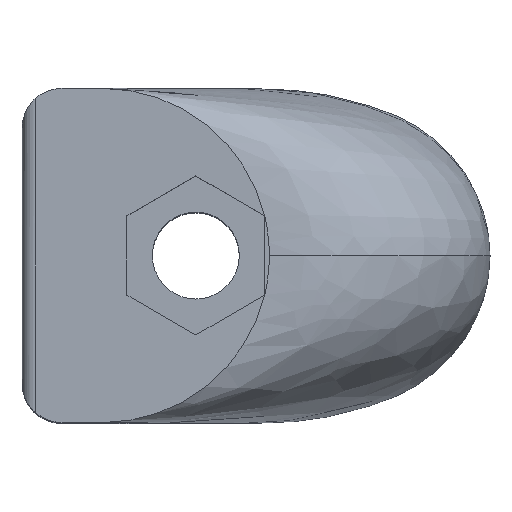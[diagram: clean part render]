
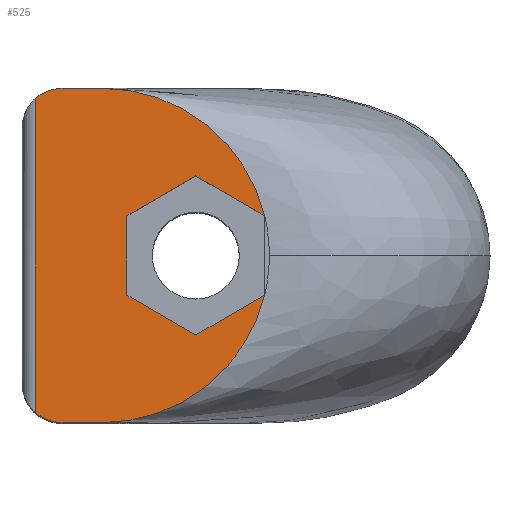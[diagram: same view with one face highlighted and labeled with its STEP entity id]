
A CAD part, top view. The second image highlights one B-rep face of the part: STEP entity #525.
In plain terms, the highlighted planar face has unit normal (0, 0, 1) as drawn and (0, 0, -1) by its records, which use the part's own axes.
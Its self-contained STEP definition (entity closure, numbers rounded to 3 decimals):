
#3 = VECTOR ( 'NONE', #1205, 1000. ) ;
#17 = AXIS2_PLACEMENT_3D ( 'NONE', #1188, #994, #893 ) ;
#18 = ORIENTED_EDGE ( 'NONE', *, *, #938, .F. ) ;
#37 = LINE ( 'NONE', #735, #290 ) ;
#40 = CARTESIAN_POINT ( 'NONE',  ( -7., -12.5, -22.65 ) ) ;
#50 = LINE ( 'NONE', #573, #3 ) ;
#74 = VECTOR ( 'NONE', #150, 1000. ) ;
#112 = CARTESIAN_POINT ( 'NONE',  ( -10., 12.5, -22.65 ) ) ;
#114 = AXIS2_PLACEMENT_3D ( 'NONE', #956, #352, #972 ) ;
#147 = DIRECTION ( 'NONE',  ( -0.866, -0.5, 0. ) ) ;
#150 = DIRECTION ( 'NONE',  ( 0., 1., 0. ) ) ;
#151 = ORIENTED_EDGE ( 'NONE', *, *, #1065, .F. ) ;
#154 = CARTESIAN_POINT ( 'NONE',  ( -12., 11.736, -22.65 ) ) ;
#156 = DIRECTION ( 'NONE',  ( 0.866, 0.5, 0. ) ) ;
#188 = CARTESIAN_POINT ( 'NONE',  ( -10., -12.5, -22.65 ) ) ;
#191 = VERTEX_POINT ( 'NONE', #188 ) ;
#193 = AXIS2_PLACEMENT_3D ( 'NONE', #475, #493, #381 ) ;
#215 = AXIS2_PLACEMENT_3D ( 'NONE', #976, #480, #983 ) ;
#219 = ORIENTED_EDGE ( 'NONE', *, *, #955, .T. ) ;
#229 = EDGE_CURVE ( 'NONE', #191, #258, #312, .T. ) ;
#245 = ORIENTED_EDGE ( 'NONE', *, *, #476, .F. ) ;
#258 = VERTEX_POINT ( 'NONE', #1267 ) ;
#263 = LINE ( 'NONE', #1194, #718 ) ;
#290 = VECTOR ( 'NONE', #456, 1000. ) ;
#305 = ORIENTED_EDGE ( 'NONE', *, *, #450, .F. ) ;
#312 = CIRCLE ( 'NONE', #612, 3. ) ;
#352 = DIRECTION ( 'NONE',  ( 0., 0., -1. ) ) ;
#370 = PLANE ( 'NONE',  #114 ) ;
#381 = DIRECTION ( 'NONE',  ( -1., 0., 0. ) ) ;
#399 = DIRECTION ( 'NONE',  ( -0.866, 0.5, 0. ) ) ;
#400 = EDGE_LOOP ( 'NONE', ( #689, #627, #219, #617, #1275, #18, #305, #245, #1315, #1049, #151, #958 ) ) ;
#415 = VERTEX_POINT ( 'NONE', #653 ) ;
#435 = VERTEX_POINT ( 'NONE', #559 ) ;
#445 = CARTESIAN_POINT ( 'NONE',  ( -13., 12.5, -22.65 ) ) ;
#450 = EDGE_CURVE ( 'NONE', #921, #465, #263, .T. ) ;
#456 = DIRECTION ( 'NONE',  ( 1., 0., 0. ) ) ;
#458 = VERTEX_POINT ( 'NONE', #40 ) ;
#465 = VERTEX_POINT ( 'NONE', #794 ) ;
#475 = CARTESIAN_POINT ( 'NONE',  ( -10., 9.5, -22.65 ) ) ;
#476 = EDGE_CURVE ( 'NONE', #654, #921, #50, .T. ) ;
#480 = DIRECTION ( 'NONE',  ( 0., 0., 1. ) ) ;
#491 = VECTOR ( 'NONE', #1312, 1000. ) ;
#493 = DIRECTION ( 'NONE',  ( 0., 0., -1. ) ) ;
#525 = ADVANCED_FACE ( 'NONE', ( #1279 ), #370, .T. ) ;
#552 = EDGE_CURVE ( 'NONE', #258, #781, #659, .T. ) ;
#559 = CARTESIAN_POINT ( 'NONE',  ( -7., 12.5, -22.65 ) ) ;
#573 = CARTESIAN_POINT ( 'NONE',  ( -5.15, -2.973, -22.65 ) ) ;
#580 = CARTESIAN_POINT ( 'NONE',  ( 5.146, -2.962, -22.65 ) ) ;
#612 = AXIS2_PLACEMENT_3D ( 'NONE', #1225, #646, #748 ) ;
#617 = ORIENTED_EDGE ( 'NONE', *, *, #1309, .F. ) ;
#627 = ORIENTED_EDGE ( 'NONE', *, *, #552, .T. ) ;
#634 = VERTEX_POINT ( 'NONE', #112 ) ;
#636 = LINE ( 'NONE', #1271, #792 ) ;
#642 = EDGE_CURVE ( 'NONE', #415, #654, #821, .T. ) ;
#646 = DIRECTION ( 'NONE',  ( 0., 0., -1. ) ) ;
#647 = VECTOR ( 'NONE', #1280, 1000. ) ;
#653 = CARTESIAN_POINT ( 'NONE',  ( 0., -5.947, -22.65 ) ) ;
#654 = VERTEX_POINT ( 'NONE', #808 ) ;
#659 = LINE ( 'NONE', #1076, #74 ) ;
#682 = EDGE_CURVE ( 'NONE', #915, #415, #636, .T. ) ;
#689 = ORIENTED_EDGE ( 'NONE', *, *, #229, .T. ) ;
#718 = VECTOR ( 'NONE', #156, 1000. ) ;
#735 = CARTESIAN_POINT ( 'NONE',  ( -13., -12.5, -22.65 ) ) ;
#748 = DIRECTION ( 'NONE',  ( -1., 0., 0. ) ) ;
#781 = VERTEX_POINT ( 'NONE', #154 ) ;
#792 = VECTOR ( 'NONE', #147, 1000. ) ;
#794 = CARTESIAN_POINT ( 'NONE',  ( 0., 5.947, -22.65 ) ) ;
#797 = EDGE_CURVE ( 'NONE', #191, #458, #37, .T. ) ;
#808 = CARTESIAN_POINT ( 'NONE',  ( -5.15, -2.973, -22.65 ) ) ;
#821 = LINE ( 'NONE', #1325, #1202 ) ;
#888 = CARTESIAN_POINT ( 'NONE',  ( 0., 5.947, -22.65 ) ) ;
#893 = DIRECTION ( 'NONE',  ( -1., 0., 0. ) ) ;
#915 = VERTEX_POINT ( 'NONE', #580 ) ;
#921 = VERTEX_POINT ( 'NONE', #1088 ) ;
#927 = LINE ( 'NONE', #445, #647 ) ;
#938 = EDGE_CURVE ( 'NONE', #465, #1263, #1094, .T. ) ;
#955 = EDGE_CURVE ( 'NONE', #781, #634, #1242, .T. ) ;
#956 = CARTESIAN_POINT ( 'NONE',  ( -7., 0., -22.65 ) ) ;
#958 = ORIENTED_EDGE ( 'NONE', *, *, #797, .F. ) ;
#972 = DIRECTION ( 'NONE',  ( -1., 0., 0. ) ) ;
#976 = CARTESIAN_POINT ( 'NONE',  ( -7., 0., -22.65 ) ) ;
#983 = DIRECTION ( 'NONE',  ( -1., 0., 0. ) ) ;
#985 = EDGE_CURVE ( 'NONE', #1263, #435, #988, .T. ) ;
#988 = CIRCLE ( 'NONE', #215, 12.5 ) ;
#994 = DIRECTION ( 'NONE',  ( 0., 0., 1. ) ) ;
#1029 = CARTESIAN_POINT ( 'NONE',  ( 5.148, 2.966, -22.65 ) ) ;
#1049 = ORIENTED_EDGE ( 'NONE', *, *, #682, .F. ) ;
#1065 = EDGE_CURVE ( 'NONE', #458, #915, #1323, .T. ) ;
#1076 = CARTESIAN_POINT ( 'NONE',  ( -12., 0., -22.65 ) ) ;
#1088 = CARTESIAN_POINT ( 'NONE',  ( -5.15, 2.973, -22.65 ) ) ;
#1094 = LINE ( 'NONE', #888, #491 ) ;
#1188 = CARTESIAN_POINT ( 'NONE',  ( -7., 0., -22.65 ) ) ;
#1194 = CARTESIAN_POINT ( 'NONE',  ( -5.15, 2.973, -22.65 ) ) ;
#1202 = VECTOR ( 'NONE', #399, 1000. ) ;
#1205 = DIRECTION ( 'NONE',  ( 0., 1., 0. ) ) ;
#1225 = CARTESIAN_POINT ( 'NONE',  ( -10., -9.5, -22.65 ) ) ;
#1242 = CIRCLE ( 'NONE', #193, 3. ) ;
#1263 = VERTEX_POINT ( 'NONE', #1029 ) ;
#1267 = CARTESIAN_POINT ( 'NONE',  ( -12., -11.736, -22.65 ) ) ;
#1271 = CARTESIAN_POINT ( 'NONE',  ( 5.15, -2.973, -22.65 ) ) ;
#1275 = ORIENTED_EDGE ( 'NONE', *, *, #985, .F. ) ;
#1279 = FACE_OUTER_BOUND ( 'NONE', #400, .T. ) ;
#1280 = DIRECTION ( 'NONE',  ( -1., 0., 0. ) ) ;
#1309 = EDGE_CURVE ( 'NONE', #435, #634, #927, .T. ) ;
#1312 = DIRECTION ( 'NONE',  ( 0.866, -0.5, 0. ) ) ;
#1315 = ORIENTED_EDGE ( 'NONE', *, *, #642, .F. ) ;
#1323 = CIRCLE ( 'NONE', #17, 12.5 ) ;
#1325 = CARTESIAN_POINT ( 'NONE',  ( 0., -5.947, -22.65 ) ) ;
